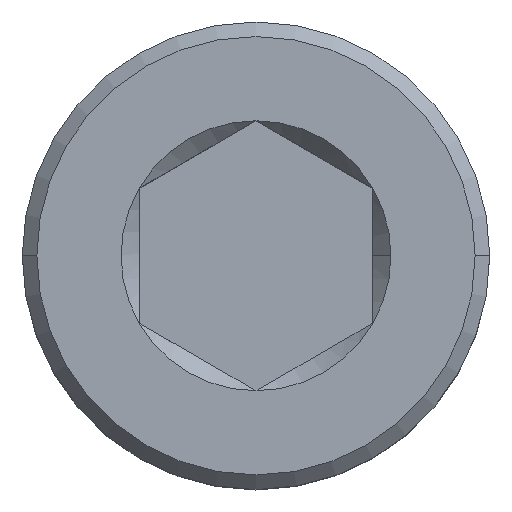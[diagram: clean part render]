
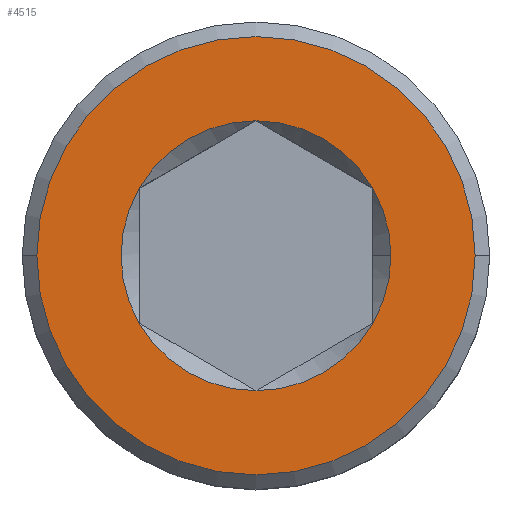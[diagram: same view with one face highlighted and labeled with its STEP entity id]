
A CAD part, top view. The second image highlights one B-rep face of the part: STEP entity #4515.
In plain terms, the highlighted planar face has unit normal (0, 0, 1).
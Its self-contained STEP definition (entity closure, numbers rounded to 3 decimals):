
#23 = ORIENTED_EDGE ( 'NONE', *, *, #2810, .F. ) ;
#48 = AXIS2_PLACEMENT_3D ( 'NONE', #650, #2047, #1041 ) ;
#376 = CIRCLE ( 'NONE', #1330, 4.619 ) ;
#486 = CIRCLE ( 'NONE', #1793, 4.619 ) ;
#549 = DIRECTION ( 'NONE',  ( 0., 0., 1. ) ) ;
#590 = DIRECTION ( 'NONE',  ( 0., 0., 1. ) ) ;
#596 = AXIS2_PLACEMENT_3D ( 'NONE', #2462, #1091, #3863 ) ;
#629 = AXIS2_PLACEMENT_3D ( 'NONE', #3042, #3453, #981 ) ;
#644 = VERTEX_POINT ( 'NONE', #4454 ) ;
#650 = CARTESIAN_POINT ( 'NONE',  ( 0., 0., 0. ) ) ;
#673 = EDGE_CURVE ( 'NONE', #1418, #1369, #3778, .T. ) ;
#691 = EDGE_CURVE ( 'NONE', #772, #2405, #486, .T. ) ;
#757 = EDGE_CURVE ( 'NONE', #644, #2175, #4203, .T. ) ;
#772 = VERTEX_POINT ( 'NONE', #3690 ) ;
#880 = AXIS2_PLACEMENT_3D ( 'NONE', #1384, #1342, #3498 ) ;
#904 = AXIS2_PLACEMENT_3D ( 'NONE', #1918, #1513, #4011 ) ;
#981 = DIRECTION ( 'NONE',  ( 1., 0., 0. ) ) ;
#1017 = DIRECTION ( 'NONE',  ( 1., 0., 0. ) ) ;
#1041 = DIRECTION ( 'NONE',  ( 1., 0., 0. ) ) ;
#1091 = DIRECTION ( 'NONE',  ( 0., 0., 1. ) ) ;
#1122 = CIRCLE ( 'NONE', #904, 7.5 ) ;
#1222 = EDGE_LOOP ( 'NONE', ( #3211, #2561 ) ) ;
#1330 = AXIS2_PLACEMENT_3D ( 'NONE', #2488, #2931, #3305 ) ;
#1342 = DIRECTION ( 'NONE',  ( 0., 0., 1. ) ) ;
#1344 = CARTESIAN_POINT ( 'NONE',  ( -4., 2.309, 0. ) ) ;
#1358 = CARTESIAN_POINT ( 'NONE',  ( 0., 0., 0. ) ) ;
#1369 = VERTEX_POINT ( 'NONE', #2454 ) ;
#1384 = CARTESIAN_POINT ( 'NONE',  ( 0., 0., 0. ) ) ;
#1402 = FACE_OUTER_BOUND ( 'NONE', #1222, .T. ) ;
#1418 = VERTEX_POINT ( 'NONE', #3789 ) ;
#1422 = EDGE_CURVE ( 'NONE', #3324, #1418, #2747, .T. ) ;
#1513 = DIRECTION ( 'NONE',  ( 0., 0., 1. ) ) ;
#1563 = CARTESIAN_POINT ( 'NONE',  ( -4., -2.309, 0. ) ) ;
#1581 = CARTESIAN_POINT ( 'NONE',  ( 0., 0., 0. ) ) ;
#1648 = EDGE_LOOP ( 'NONE', ( #4142, #3376, #4476, #1669, #2600, #23, #3941 ) ) ;
#1669 = ORIENTED_EDGE ( 'NONE', *, *, #673, .F. ) ;
#1730 = CIRCLE ( 'NONE', #629, 4.619 ) ;
#1793 = AXIS2_PLACEMENT_3D ( 'NONE', #3711, #549, #3369 ) ;
#1805 = EDGE_CURVE ( 'NONE', #2514, #1830, #1730, .T. ) ;
#1830 = VERTEX_POINT ( 'NONE', #1344 ) ;
#1854 = CARTESIAN_POINT ( 'NONE',  ( 4., 2.309, 0. ) ) ;
#1918 = CARTESIAN_POINT ( 'NONE',  ( 0., 0., 0. ) ) ;
#1964 = CARTESIAN_POINT ( 'NONE',  ( 0., 0., 0. ) ) ;
#2047 = DIRECTION ( 'NONE',  ( 0., 0., 1. ) ) ;
#2068 = FACE_BOUND ( 'NONE', #1648, .T. ) ;
#2175 = VERTEX_POINT ( 'NONE', #2277 ) ;
#2237 = AXIS2_PLACEMENT_3D ( 'NONE', #1581, #590, #2977 ) ;
#2277 = CARTESIAN_POINT ( 'NONE',  ( -7.5, 0., 0. ) ) ;
#2405 = VERTEX_POINT ( 'NONE', #1854 ) ;
#2454 = CARTESIAN_POINT ( 'NONE',  ( 4., -2.309, 0. ) ) ;
#2462 = CARTESIAN_POINT ( 'NONE',  ( 0., 0., 0. ) ) ;
#2488 = CARTESIAN_POINT ( 'NONE',  ( 0., 0., 0. ) ) ;
#2514 = VERTEX_POINT ( 'NONE', #2570 ) ;
#2561 = ORIENTED_EDGE ( 'NONE', *, *, #757, .T. ) ;
#2566 = CIRCLE ( 'NONE', #596, 4.619 ) ;
#2570 = CARTESIAN_POINT ( 'NONE',  ( 0., 4.619, 0. ) ) ;
#2600 = ORIENTED_EDGE ( 'NONE', *, *, #1422, .F. ) ;
#2713 = DIRECTION ( 'NONE',  ( 0., 0., 1. ) ) ;
#2747 = CIRCLE ( 'NONE', #48, 4.619 ) ;
#2810 = EDGE_CURVE ( 'NONE', #1830, #3324, #376, .T. ) ;
#2931 = DIRECTION ( 'NONE',  ( 0., 0., 1. ) ) ;
#2953 = AXIS2_PLACEMENT_3D ( 'NONE', #1358, #4186, #1017 ) ;
#2977 = DIRECTION ( 'NONE',  ( 1., 0., 0. ) ) ;
#3042 = CARTESIAN_POINT ( 'NONE',  ( 0., 0., 0. ) ) ;
#3044 = DIRECTION ( 'NONE',  ( 1., 0., 0. ) ) ;
#3102 = EDGE_CURVE ( 'NONE', #1369, #772, #2566, .T. ) ;
#3211 = ORIENTED_EDGE ( 'NONE', *, *, #4178, .T. ) ;
#3305 = DIRECTION ( 'NONE',  ( 1., 0., 0. ) ) ;
#3324 = VERTEX_POINT ( 'NONE', #1563 ) ;
#3369 = DIRECTION ( 'NONE',  ( 1., 0., 0. ) ) ;
#3376 = ORIENTED_EDGE ( 'NONE', *, *, #691, .F. ) ;
#3410 = AXIS2_PLACEMENT_3D ( 'NONE', #1964, #2713, #3044 ) ;
#3453 = DIRECTION ( 'NONE',  ( 0., 0., 1. ) ) ;
#3464 = EDGE_CURVE ( 'NONE', #2405, #2514, #4101, .T. ) ;
#3498 = DIRECTION ( 'NONE',  ( 1., 0., 0. ) ) ;
#3511 = PLANE ( 'NONE',  #2953 ) ;
#3690 = CARTESIAN_POINT ( 'NONE',  ( 4.619, 0., 0. ) ) ;
#3711 = CARTESIAN_POINT ( 'NONE',  ( 0., 0., 0. ) ) ;
#3778 = CIRCLE ( 'NONE', #3410, 4.619 ) ;
#3789 = CARTESIAN_POINT ( 'NONE',  ( 0., -4.619, 0. ) ) ;
#3863 = DIRECTION ( 'NONE',  ( 1., 0., 0. ) ) ;
#3941 = ORIENTED_EDGE ( 'NONE', *, *, #1805, .F. ) ;
#4011 = DIRECTION ( 'NONE',  ( 1., 0., 0. ) ) ;
#4101 = CIRCLE ( 'NONE', #880, 4.619 ) ;
#4142 = ORIENTED_EDGE ( 'NONE', *, *, #3464, .F. ) ;
#4178 = EDGE_CURVE ( 'NONE', #2175, #644, #1122, .T. ) ;
#4186 = DIRECTION ( 'NONE',  ( 0., 0., 1. ) ) ;
#4203 = CIRCLE ( 'NONE', #2237, 7.5 ) ;
#4454 = CARTESIAN_POINT ( 'NONE',  ( 7.5, 0., 0. ) ) ;
#4476 = ORIENTED_EDGE ( 'NONE', *, *, #3102, .F. ) ;
#4515 = ADVANCED_FACE ( 'NONE', ( #1402, #2068 ), #3511, .T. ) ;
